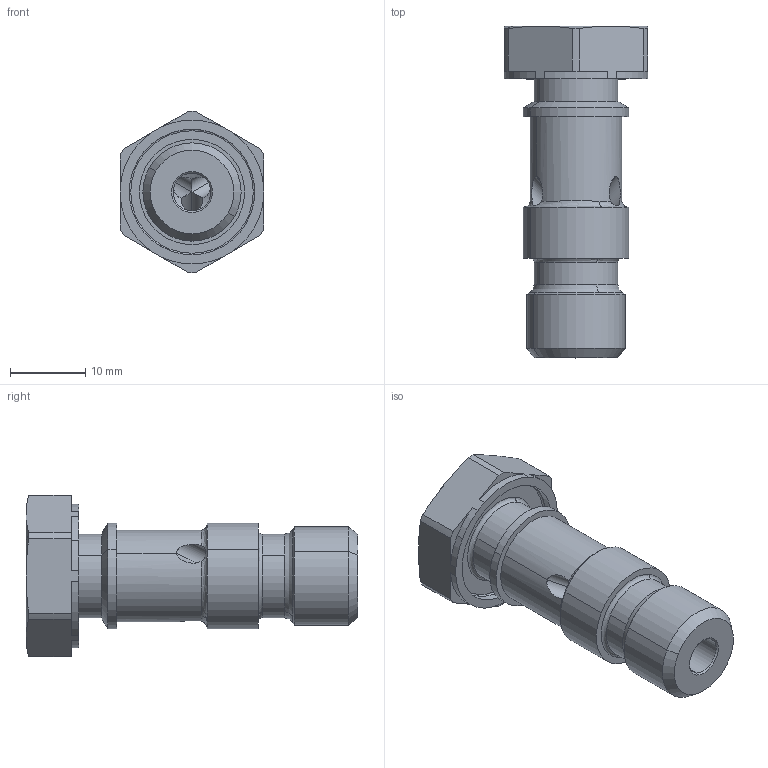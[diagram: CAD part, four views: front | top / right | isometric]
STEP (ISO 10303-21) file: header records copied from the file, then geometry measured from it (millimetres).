
FILE_DESCRIPTION((''),'2;1');
FILE_NAME('108102.0.stp','2007-11-06T08:31:16',(''),(''),'AutoCAD STEP 2000i','AutoCAD 2000i',', , ');
FILE_SCHEMA(('CONFIG_CONTROL_DESIGN'));
Length unit declared in the file: millimetre
Products named in the file (2): 108102.0; 1081#0
Assembly tree (1 placements, depth 2):
  108102.0
    1081#0
Bounding box: 19 x 44 x 21.4 mm (x, y, z)
Volume: 6131.3 mm3; surface area: 3187.6 mm2
Topology: 1 solids, 1 shells, 86 faces, 234 edges, 150 vertices
Faces by surface type: cylinder 36, cone 21, plane 19, bspline 10
Entity records: 3536 total; most frequent: CARTESIAN_POINT 1263, DIRECTION 470, ORIENTED_EDGE 468, EDGE_CURVE 234, AXIS2_PLACEMENT_3D 196, VERTEX_POINT 150, CIRCLE 115, EDGE_LOOP 92
